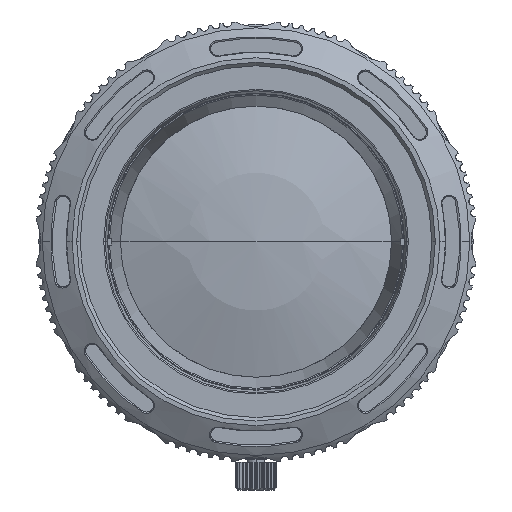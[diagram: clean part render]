
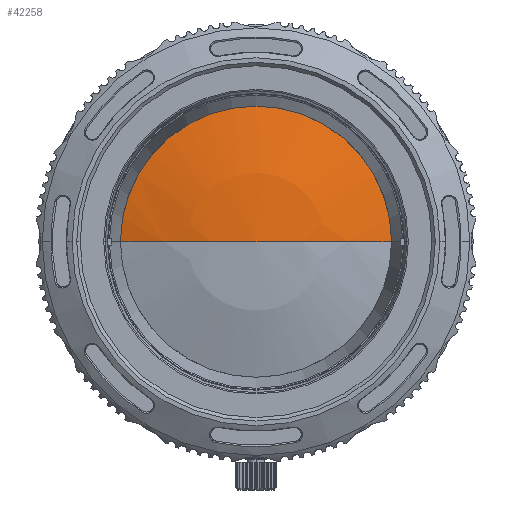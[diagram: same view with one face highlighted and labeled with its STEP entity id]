
A CAD part, left-side view. The second image highlights one B-rep face of the part: STEP entity #42258.
In plain terms, the highlighted spherical face has radius 63.099 mm.
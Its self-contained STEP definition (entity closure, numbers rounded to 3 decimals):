
#8908=CARTESIAN_POINT('',(-36.746,0.,0.));
#8909=DIRECTION('',(1.,0.,0.));
#8910=DIRECTION('',(0.,1.,0.));
#8911=AXIS2_PLACEMENT_3D('',#8908,#8909,#8910);
#8918=CARTESIAN_POINT('',(23.187,0.,0.));
#8919=DIRECTION('',(0.,0.,1.));
#8920=DIRECTION('',(-0.95,0.313,0.));
#8921=AXIS2_PLACEMENT_3D('',#8918,#8919,#8920);
#8923=CARTESIAN_POINT('',(23.187,0.,0.));
#8924=DIRECTION('',(0.,0.,-1.));
#8925=DIRECTION('',(-0.95,-0.313,0.));
#8926=AXIS2_PLACEMENT_3D('',#8923,#8924,#8925);
#35610=CARTESIAN_POINT('',(-36.746,19.735,0.));
#35611=CARTESIAN_POINT('',(-36.746,-19.735,0.));
#35612=VERTEX_POINT('',#35610);
#35613=VERTEX_POINT('',#35611);
#35642=CARTESIAN_POINT('',(-39.912,0.,0.));
#35643=VERTEX_POINT('',#35642);
#42246=CARTESIAN_POINT('',(23.187,0.,0.));
#42247=DIRECTION('',(1.,0.,0.));
#42248=DIRECTION('',(0.,-1.,0.));
#42249=AXIS2_PLACEMENT_3D('',#42246,#42247,#42248);
#42250=SPHERICAL_SURFACE('',#42249,63.099);
#42251=ORIENTED_EDGE('',*,*,#42239,.T.);
#42253=ORIENTED_EDGE('',*,*,#42252,.T.);
#42255=ORIENTED_EDGE('',*,*,#42254,.F.);
#42256=EDGE_LOOP('',(#42251,#42253,#42255));
#42257=FACE_OUTER_BOUND('',#42256,.F.);
#8912=CIRCLE('',#8911,19.735);
#8922=CIRCLE('',#8921,63.099);
#8927=CIRCLE('',#8926,63.099);
#42239=EDGE_CURVE('',#35612,#35613,#8912,.T.);
#42252=EDGE_CURVE('',#35613,#35643,#8927,.T.);
#42254=EDGE_CURVE('',#35612,#35643,#8922,.T.);
#42258=ADVANCED_FACE('',(#42257),#42250,.T.);
